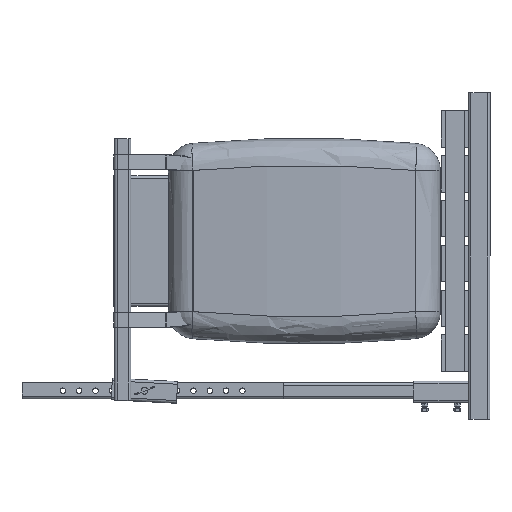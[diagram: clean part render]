
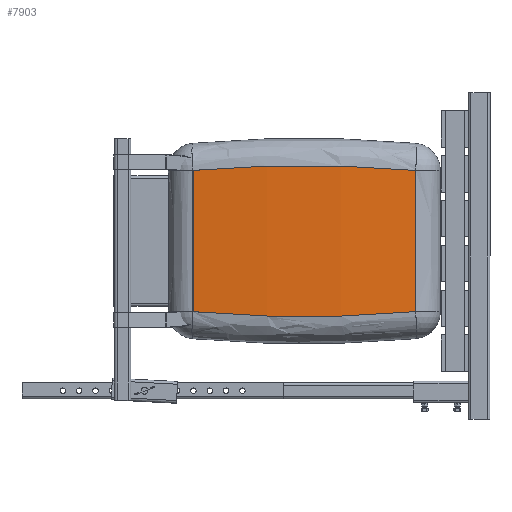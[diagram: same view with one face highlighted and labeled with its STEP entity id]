
A CAD part, left-side view. The second image highlights one B-rep face of the part: STEP entity #7903.
In plain terms, the highlighted free-form (B-spline) face has degree [3, 3] with [4, 4] control points.
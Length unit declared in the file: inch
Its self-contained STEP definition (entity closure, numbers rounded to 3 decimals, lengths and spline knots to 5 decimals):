
#105=B_SPLINE_SURFACE_WITH_KNOTS('',3,3,((#14740,#14741,#14742,#14743),
(#14744,#14745,#14746,#14747),(#14748,#14749,#14750,#14751),(#14752,#14753,
#14754,#14755)),.UNSPECIFIED.,.F.,.F.,.F.,(4,4),(4,4),(0.13241,
0.86759),(0.09048,0.90848),.UNSPECIFIED.);
#198=B_SPLINE_CURVE_WITH_KNOTS('',3,(#14153,#14154,#14155,#14156),
 .UNSPECIFIED.,.F.,.F.,(4,4),(12.64799,78.58586),
 .UNSPECIFIED.);
#203=B_SPLINE_CURVE_WITH_KNOTS('',3,(#14322,#14323,#14324,#14325),
 .UNSPECIFIED.,.F.,.F.,(4,4),(-78.56102,-12.64886),
 .UNSPECIFIED.);
#207=B_SPLINE_CURVE_WITH_KNOTS('',3,(#14430,#14431,#14432,#14433,#14434,
#14435),.UNSPECIFIED.,.F.,.F.,(4,1,1,4),(-113.30261,-84.19533,
-55.08804,-11.42711),.UNSPECIFIED.);
#210=B_SPLINE_CURVE_WITH_KNOTS('',3,(#14508,#14509,#14510,#14511,#14512,
#14513),.UNSPECIFIED.,.F.,.F.,(4,1,1,4),(11.42711,40.53439,
69.64168,113.30261),.UNSPECIFIED.);
#1085=FACE_OUTER_BOUND('',#1572,.T.);
#1572=EDGE_LOOP('',(#6524,#6525,#6526,#6527));
#3826=VERTEX_POINT('',#14050);
#3837=VERTEX_POINT('',#14114);
#3840=VERTEX_POINT('',#14161);
#3844=VERTEX_POINT('',#14284);
#4756=EDGE_CURVE('',#3826,#3837,#198,.T.);
#4770=EDGE_CURVE('',#3844,#3840,#203,.T.);
#4774=EDGE_CURVE('',#3837,#3844,#207,.T.);
#4777=EDGE_CURVE('',#3840,#3826,#210,.T.);
#6524=ORIENTED_EDGE('',*,*,#4770,.F.);
#6525=ORIENTED_EDGE('',*,*,#4774,.F.);
#6526=ORIENTED_EDGE('',*,*,#4756,.F.);
#6527=ORIENTED_EDGE('',*,*,#4777,.F.);
#7903=ADVANCED_FACE('',(#1085),#105,.T.);
#14050=CARTESIAN_POINT('',(17.95942,45.45206,12.9799));
#14114=CARTESIAN_POINT('',(17.95942,45.45206,-12.9799));
#14153=CARTESIAN_POINT('Ctrl Pts',(17.95942,45.45206,12.9799));
#14154=CARTESIAN_POINT('Ctrl Pts',(17.95942,45.45206,4.32663));
#14155=CARTESIAN_POINT('Ctrl Pts',(17.95942,45.45206,-4.32663));
#14156=CARTESIAN_POINT('Ctrl Pts',(17.95942,45.45206,-12.9799));
#14161=CARTESIAN_POINT('',(17.9547,4.55175,12.97483));
#14284=CARTESIAN_POINT('',(17.9547,4.55175,-12.97483));
#14322=CARTESIAN_POINT('Ctrl Pts',(17.9547,4.55175,-12.97483));
#14323=CARTESIAN_POINT('Ctrl Pts',(17.9547,4.55175,-4.32494));
#14324=CARTESIAN_POINT('Ctrl Pts',(17.9547,4.55175,4.32494));
#14325=CARTESIAN_POINT('Ctrl Pts',(17.9547,4.55175,12.97483));
#14430=CARTESIAN_POINT('Ctrl Pts',(17.95942,45.45206,-12.9799));
#14431=CARTESIAN_POINT('Ctrl Pts',(18.31118,41.5773,-13.32385));
#14432=CARTESIAN_POINT('Ctrl Pts',(18.81516,33.79102,-13.81661));
#14433=CARTESIAN_POINT('Ctrl Pts',(18.98708,20.11112,-13.98475));
#14434=CARTESIAN_POINT('Ctrl Pts',(18.47755,10.36034,-13.48646));
#14435=CARTESIAN_POINT('Ctrl Pts',(17.9547,4.55175,-12.97483));
#14508=CARTESIAN_POINT('Ctrl Pts',(17.9547,4.55175,12.97483));
#14509=CARTESIAN_POINT('Ctrl Pts',(18.30327,8.42414,13.31592));
#14510=CARTESIAN_POINT('Ctrl Pts',(18.80772,16.20593,13.80937));
#14511=CARTESIAN_POINT('Ctrl Pts',(18.99156,29.8839,13.98909));
#14512=CARTESIAN_POINT('Ctrl Pts',(18.48707,39.63992,13.49583));
#14513=CARTESIAN_POINT('Ctrl Pts',(17.95942,45.45206,12.9799));
#14740=CARTESIAN_POINT('Ctrl Pts',(17.9547,4.55175,13.20009));
#14741=CARTESIAN_POINT('Ctrl Pts',(19.18869,18.26069,14.10731));
#14742=CARTESIAN_POINT('Ctrl Pts',(19.19026,31.89413,14.10846));
#14743=CARTESIAN_POINT('Ctrl Pts',(17.95942,45.45206,13.20356));
#14744=CARTESIAN_POINT('Ctrl Pts',(17.9547,4.55175,4.40003));
#14745=CARTESIAN_POINT('Ctrl Pts',(19.18869,18.26069,4.70244));
#14746=CARTESIAN_POINT('Ctrl Pts',(19.19026,31.89413,4.70282));
#14747=CARTESIAN_POINT('Ctrl Pts',(17.95942,45.45206,4.40119));
#14748=CARTESIAN_POINT('Ctrl Pts',(17.9547,4.55175,-4.40003));
#14749=CARTESIAN_POINT('Ctrl Pts',(19.18869,18.26069,-4.70244));
#14750=CARTESIAN_POINT('Ctrl Pts',(19.19026,31.89413,-4.70282));
#14751=CARTESIAN_POINT('Ctrl Pts',(17.95942,45.45206,-4.40119));
#14752=CARTESIAN_POINT('Ctrl Pts',(17.9547,4.55175,-13.20009));
#14753=CARTESIAN_POINT('Ctrl Pts',(19.18869,18.26069,-14.10731));
#14754=CARTESIAN_POINT('Ctrl Pts',(19.19026,31.89413,-14.10846));
#14755=CARTESIAN_POINT('Ctrl Pts',(17.95942,45.45206,-13.20356));
